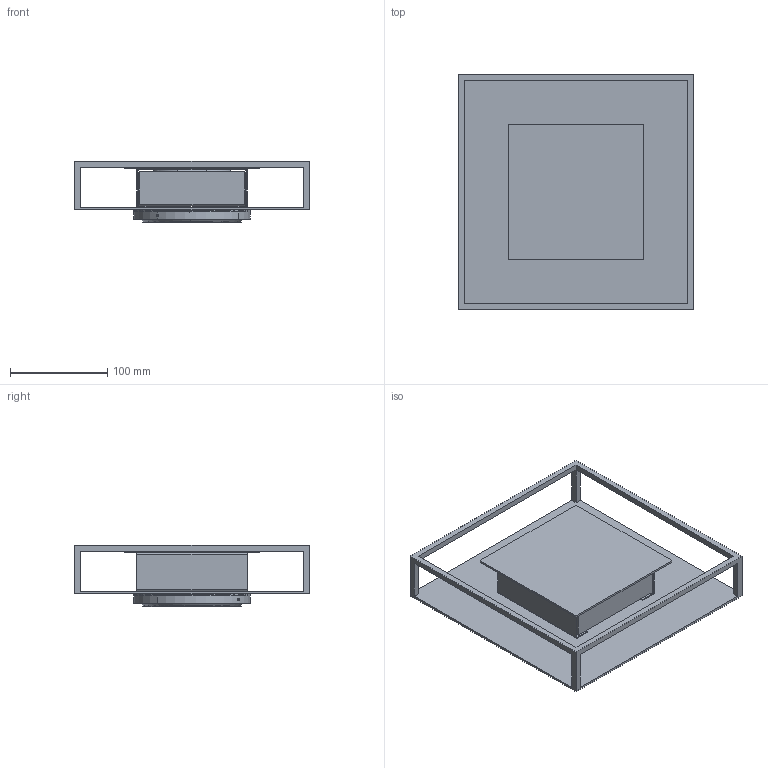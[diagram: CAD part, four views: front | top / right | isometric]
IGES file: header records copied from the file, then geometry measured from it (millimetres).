
Start section: SolidWorks IGES file using analytic representation for surfaces
Global section: file name: C:\Users\libre2.DOMINIO\Desktop\CARPYEN\3D\NAHTRANG\yoko\YOKO 3d 050515.IGS; native system: SolidWorks 2014; preprocessor: SolidWorks 2014; author: libre2; date: 160916.104706; units: millimetre
Bounding box: 242 x 242 x 63.32 mm (x, y, z)
Surface area: 412537.2 mm2 (no closed solid volume)
Topology: 0 solids, 0 shells, 167 faces, 2360 edges, 2360 vertices
Faces by surface type: bspline 109, revolution 58
